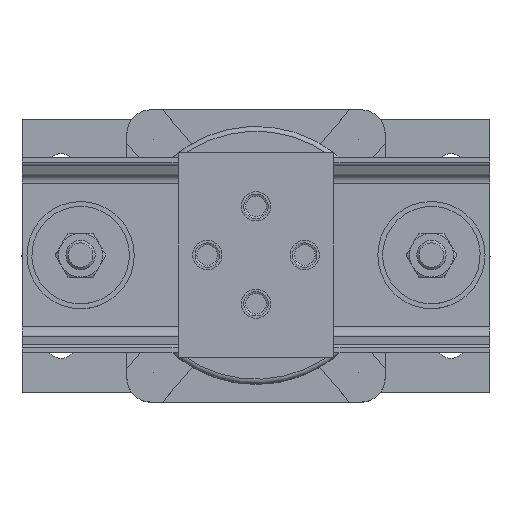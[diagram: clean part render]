
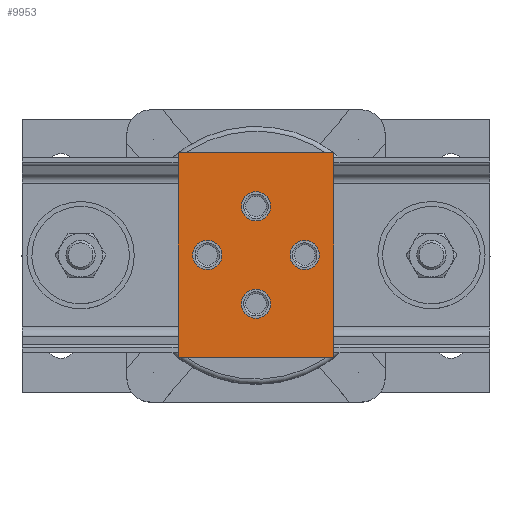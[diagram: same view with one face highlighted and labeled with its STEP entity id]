
A CAD part, top view. The second image highlights one B-rep face of the part: STEP entity #9953.
In plain terms, the highlighted planar face has unit normal (0, 0, 1).
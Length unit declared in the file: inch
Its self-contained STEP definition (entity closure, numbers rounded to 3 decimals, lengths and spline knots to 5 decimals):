
#362=FACE_BOUND('',#1849,.T.);
#363=FACE_BOUND('',#1850,.T.);
#364=FACE_BOUND('',#1851,.T.);
#365=FACE_BOUND('',#1852,.T.);
#658=PLANE('',#10886);
#1241=FACE_OUTER_BOUND('',#1848,.T.);
#1848=EDGE_LOOP('',(#8201,#8202,#8203,#8204));
#1849=EDGE_LOOP('',(#8205,#8206));
#1850=EDGE_LOOP('',(#8207,#8208));
#1851=EDGE_LOOP('',(#8209,#8210));
#1852=EDGE_LOOP('',(#8211,#8212));
#2565=LINE('',#19195,#3266);
#2566=LINE('',#19197,#3267);
#2567=LINE('',#19199,#3268);
#2568=LINE('',#19200,#3269);
#3266=VECTOR('',#13197,0.3937);
#3267=VECTOR('',#13198,0.3937);
#3268=VECTOR('',#13199,0.3937);
#3269=VECTOR('',#13200,0.3937);
#3735=CIRCLE('',#10887,0.375);
#3736=CIRCLE('',#10888,0.375);
#3737=CIRCLE('',#10889,0.375);
#3738=CIRCLE('',#10890,0.375);
#3739=CIRCLE('',#10891,0.375);
#3740=CIRCLE('',#10892,0.375);
#3741=CIRCLE('',#10893,0.375);
#3742=CIRCLE('',#10894,0.375);
#4488=VERTEX_POINT('',#19193);
#4489=VERTEX_POINT('',#19194);
#4490=VERTEX_POINT('',#19196);
#4491=VERTEX_POINT('',#19198);
#4492=VERTEX_POINT('',#19201);
#4493=VERTEX_POINT('',#19202);
#4494=VERTEX_POINT('',#19205);
#4495=VERTEX_POINT('',#19206);
#4496=VERTEX_POINT('',#19209);
#4497=VERTEX_POINT('',#19210);
#4498=VERTEX_POINT('',#19213);
#4499=VERTEX_POINT('',#19214);
#5772=EDGE_CURVE('',#4488,#4489,#2565,.T.);
#5773=EDGE_CURVE('',#4490,#4488,#2566,.T.);
#5774=EDGE_CURVE('',#4491,#4490,#2567,.T.);
#5775=EDGE_CURVE('',#4489,#4491,#2568,.T.);
#5776=EDGE_CURVE('',#4492,#4493,#3735,.T.);
#5777=EDGE_CURVE('',#4493,#4492,#3736,.T.);
#5778=EDGE_CURVE('',#4494,#4495,#3737,.T.);
#5779=EDGE_CURVE('',#4495,#4494,#3738,.T.);
#5780=EDGE_CURVE('',#4496,#4497,#3739,.T.);
#5781=EDGE_CURVE('',#4497,#4496,#3740,.T.);
#5782=EDGE_CURVE('',#4498,#4499,#3741,.T.);
#5783=EDGE_CURVE('',#4499,#4498,#3742,.T.);
#8201=ORIENTED_EDGE('',*,*,#5772,.F.);
#8202=ORIENTED_EDGE('',*,*,#5773,.F.);
#8203=ORIENTED_EDGE('',*,*,#5774,.F.);
#8204=ORIENTED_EDGE('',*,*,#5775,.F.);
#8205=ORIENTED_EDGE('',*,*,#5776,.T.);
#8206=ORIENTED_EDGE('',*,*,#5777,.T.);
#8207=ORIENTED_EDGE('',*,*,#5778,.T.);
#8208=ORIENTED_EDGE('',*,*,#5779,.T.);
#8209=ORIENTED_EDGE('',*,*,#5780,.T.);
#8210=ORIENTED_EDGE('',*,*,#5781,.T.);
#8211=ORIENTED_EDGE('',*,*,#5782,.T.);
#8212=ORIENTED_EDGE('',*,*,#5783,.T.);
#9953=ADVANCED_FACE('',(#1241,#362,#363,#364,#365),#658,.T.);
#10886=AXIS2_PLACEMENT_3D('',#19192,#13195,#13196);
#10887=AXIS2_PLACEMENT_3D('',#19203,#13201,#13202);
#10888=AXIS2_PLACEMENT_3D('',#19204,#13203,#13204);
#10889=AXIS2_PLACEMENT_3D('',#19207,#13205,#13206);
#10890=AXIS2_PLACEMENT_3D('',#19208,#13207,#13208);
#10891=AXIS2_PLACEMENT_3D('',#19211,#13209,#13210);
#10892=AXIS2_PLACEMENT_3D('',#19212,#13211,#13212);
#10893=AXIS2_PLACEMENT_3D('',#19215,#13213,#13214);
#10894=AXIS2_PLACEMENT_3D('',#19216,#13215,#13216);
#13195=DIRECTION('center_axis',(0.,0.,
1.));
#13196=DIRECTION('ref_axis',(-1.,0.,0.));
#13197=DIRECTION('',(0.,1.,0.));
#13198=DIRECTION('',(-1.,0.,0.));
#13199=DIRECTION('',(0.,-1.,0.));
#13200=DIRECTION('',(1.,0.,0.));
#13201=DIRECTION('center_axis',(0.,0.,
-1.));
#13202=DIRECTION('ref_axis',(-1.,0.,0.));
#13203=DIRECTION('center_axis',(0.,0.,
-1.));
#13204=DIRECTION('ref_axis',(-1.,0.,0.));
#13205=DIRECTION('center_axis',(0.,0.,
-1.));
#13206=DIRECTION('ref_axis',(-1.,0.,0.));
#13207=DIRECTION('center_axis',(0.,0.,
-1.));
#13208=DIRECTION('ref_axis',(-1.,0.,0.));
#13209=DIRECTION('center_axis',(0.,0.,
-1.));
#13210=DIRECTION('ref_axis',(-1.,0.,0.));
#13211=DIRECTION('center_axis',(0.,0.,
-1.));
#13212=DIRECTION('ref_axis',(-1.,0.,0.));
#13213=DIRECTION('center_axis',(0.,0.,
-1.));
#13214=DIRECTION('ref_axis',(-1.,0.,0.));
#13215=DIRECTION('center_axis',(0.,0.,
-1.));
#13216=DIRECTION('ref_axis',(-1.,0.,0.));
#19192=CARTESIAN_POINT('Origin',(0.,0.,
15.125));
#19193=CARTESIAN_POINT('',(-2.,-2.625,15.125));
#19194=CARTESIAN_POINT('',(-2.,2.625,15.125));
#19195=CARTESIAN_POINT('',(-2.,-2.625,15.125));
#19196=CARTESIAN_POINT('',(2.,-2.625,15.125));
#19197=CARTESIAN_POINT('',(2.,-2.625,15.125));
#19198=CARTESIAN_POINT('',(2.,2.625,15.125));
#19199=CARTESIAN_POINT('',(2.,2.625,15.125));
#19200=CARTESIAN_POINT('',(-2.,2.625,15.125));
#19201=CARTESIAN_POINT('',(-0.375,1.25,15.125));
#19202=CARTESIAN_POINT('',(0.375,1.25,15.125));
#19203=CARTESIAN_POINT('Origin',(0.,1.25,15.125));
#19204=CARTESIAN_POINT('Origin',(0.,1.25,15.125));
#19205=CARTESIAN_POINT('',(-0.375,-1.25,15.125));
#19206=CARTESIAN_POINT('',(0.375,-1.25,15.125));
#19207=CARTESIAN_POINT('Origin',(0.,-1.25,
15.125));
#19208=CARTESIAN_POINT('Origin',(0.,-1.25,
15.125));
#19209=CARTESIAN_POINT('',(-1.625,0.,15.125));
#19210=CARTESIAN_POINT('',(-0.875,0.,15.125));
#19211=CARTESIAN_POINT('Origin',(-1.25,0.,
15.125));
#19212=CARTESIAN_POINT('Origin',(-1.25,0.,
15.125));
#19213=CARTESIAN_POINT('',(0.875,0.,15.125));
#19214=CARTESIAN_POINT('',(1.625,0.,15.125));
#19215=CARTESIAN_POINT('Origin',(1.25,0.,15.125));
#19216=CARTESIAN_POINT('Origin',(1.25,0.,15.125));
